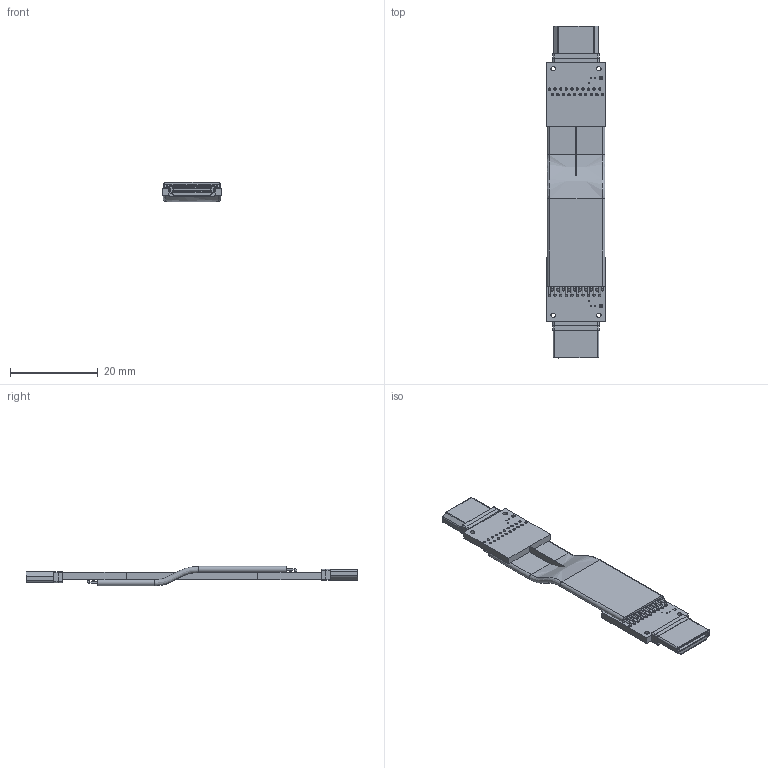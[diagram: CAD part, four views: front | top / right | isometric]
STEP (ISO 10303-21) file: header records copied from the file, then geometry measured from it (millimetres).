
FILE_DESCRIPTION(('Open CASCADE Model'),'2;1');
FILE_NAME('Open CASCADE Shape Model','2022-06-09T21:11:28',('Author'),( 'Open CASCADE'),'Open CASCADE STEP processor 6.8','Open CASCADE 6.8' ,'Unknown');
FILE_SCHEMA(('AUTOMOTIVE_DESIGN { 1 0 10303 214 1 1 1 1 }'));
Length unit declared in the file: millimetre
Products named in the file (48): PCB; Board; Open CASCADE STEP translator 6.8 8.1.1; Open CASCADE STEP translator 6.8 8.2; miniHDMI-p_RGB10275833; HDMI_type_C1; _1; Free-Models; cable20-A1A3
Assembly tree (51 placements, depth 3):
  PCB
    Board
      Open CASCADE STEP translator 6.8 8.1.1
    Open CASCADE STEP translator 6.8 8.2
      miniHDMI-p_RGB10275833  x2
      HDMI_type_C1
    _1
      HDMI_type_C1
      miniHDMI-p_RGB10275833  x2
    Free-Models
      cable20-A1A3
      cable20-A1A3
      cable20-A1A3
      cable20-A1A3
      cable20-A1A3
      cable20-A1A3
      cable20-A1A3
      cable20-A1A3
      cable20-A1A3
      cable20-A1A3
      cable20-A1A3
      cable20-A1A3
      cable20-A1A3
      cable20-A1A3
      cable20-A1A3
      cable20-A1A3
      cable20-A1A3
      cable20-A1A3
      cable20-A1A3
      cable20-A1A3
      cable20-A1A3
      cable20-A1A3
      cable20-A1A3
      cable20-A1A3
      cable20-A1A3
      cable20-A1A3
      cable20-A1A3
      cable20-A1A3
      cable20-A1A3
      cable20-A1A3
      cable20-A1A3
      cable20-A1A3
      cable20-A1A3
      cable20-A1A3
      cable20-A1A3
      cable20-A1A3
      cable20-A1A3
      cable20-A1A3
      cable20-A1A3
      cable20-A1A3
Bounding box: 13.4 x 75.69 x 4.4 mm (x, y, z)
Volume: 1627 mm3; surface area: 4631 mm2
Topology: 47 solids, 47 shells, 696 faces, 1678 edges, 1078 vertices
Faces by surface type: plane 352, cylinder 246, torus 52, bspline 46
Full cylindrical faces by diameter (mm): 0.254 x14, 0.4 x96, 0.404 x2, 0.405 x2, 0.55 x40
Entity records: 21598 total; most frequent: CARTESIAN_POINT 5239, DIRECTION 2420, ORIENTED_EDGE 2324, EDGE_CURVE 1162, AXIS2_PLACEMENT_3D 949, VERTEX_POINT 736, FACE_BOUND 672, EDGE_LOOP 672
